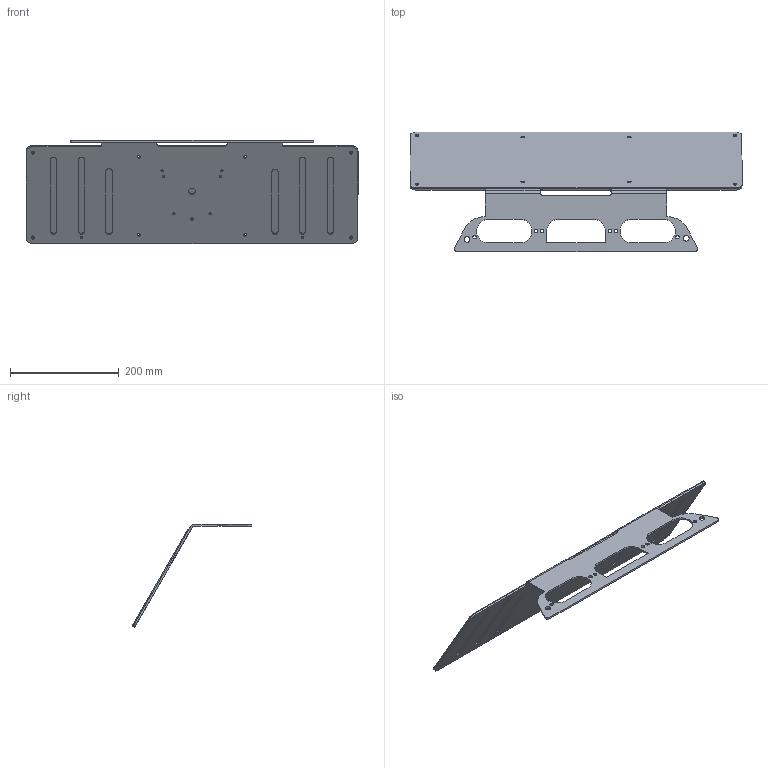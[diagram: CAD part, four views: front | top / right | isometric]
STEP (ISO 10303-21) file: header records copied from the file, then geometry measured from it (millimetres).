
FILE_DESCRIPTION (( 'STEP AP203' ), '1' );
FILE_NAME ('MMP-F150-2015.STEP', '2016-12-06T18:59:17', ( '' ), ( '' ), 'SwSTEP 2.0', 'SolidWorks 2016', '' );
FILE_SCHEMA (( 'CONFIG_CONTROL_DESIGN' ));
Length unit declared in the file: inch
Products named in the file (1): MMP-F150-2015
Bounding box: 609.6 x 219.92 x 189.3 mm (x, y, z)
Surface area: 558477.5 mm2 (no closed solid volume)
Topology: 0 solids, 2 shells, 159 faces, 455 edges, 298 vertices
Faces by surface type: cylinder 107, plane 46, bspline 6
Entity records: 5831 total; most frequent: CARTESIAN_POINT 1275, DIRECTION 955, ORIENTED_EDGE 910, EDGE_CURVE 455, AXIS2_PLACEMENT_3D 364, VERTEX_POINT 298, EDGE_LOOP 245, VECTOR 227
